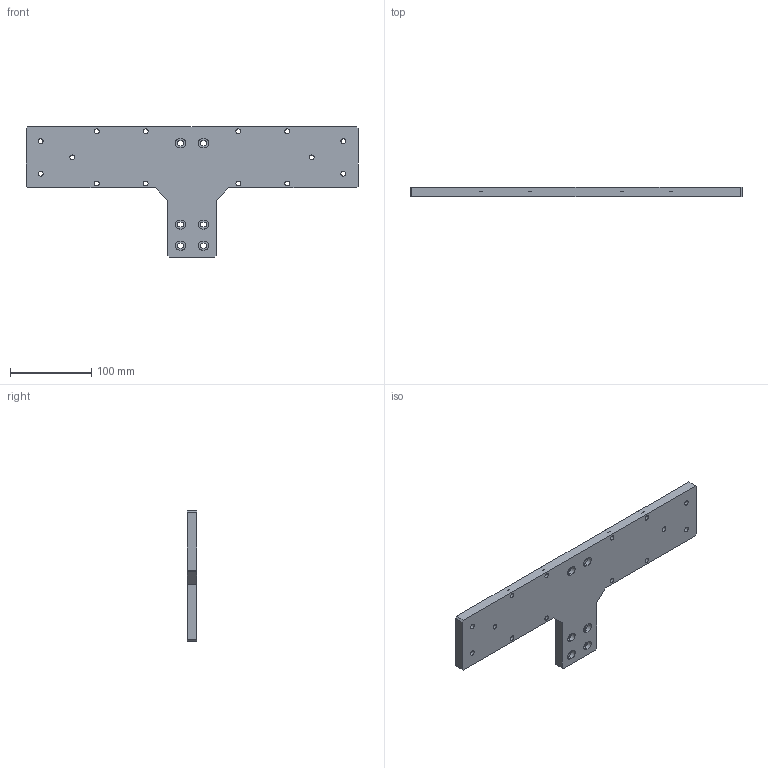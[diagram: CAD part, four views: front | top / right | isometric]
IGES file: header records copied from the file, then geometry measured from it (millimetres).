
Start section:  PTC IGES file: n60-n80l-st.igs
Global section: file name: n60-n80l-st.igs; native system: Pro/ENGINEER by Parametric Technology Corporation; preprocessor: 2008230; author: Owner; organization: Unknown; date: 20121211.163427; units: millimetre
Bounding box: 408 x 12 x 160 mm (x, y, z)
Surface area: 90584.6 mm2 (no closed solid volume)
Topology: 0 solids, 0 shells, 142 faces, 752 edges, 746 vertices
Faces by surface type: revolution 80, bspline 62
